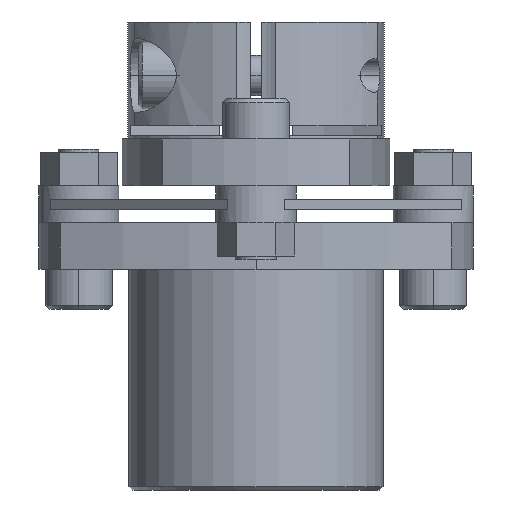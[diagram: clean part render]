
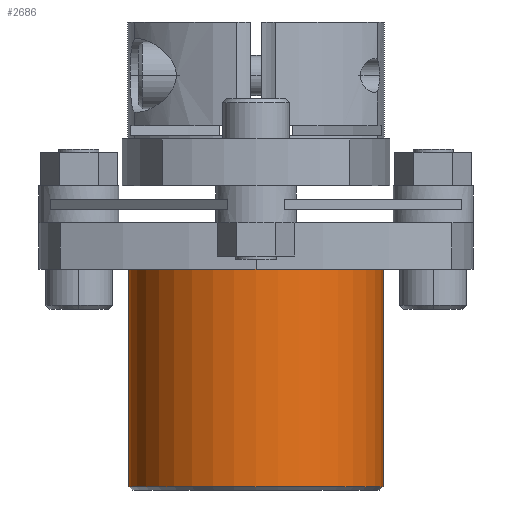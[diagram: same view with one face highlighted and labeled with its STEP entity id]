
A CAD part, front view. The second image highlights one B-rep face of the part: STEP entity #2686.
In plain terms, the highlighted cylindrical face has radius 19 mm (diameter 38 mm), a partial arc.
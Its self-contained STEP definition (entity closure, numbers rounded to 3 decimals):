
#2210=CARTESIAN_POINT('',(19.,0.,-42.25));
#2211=VERTEX_POINT('',#2210);
#2212=CARTESIAN_POINT('',(19.,0.,-9.75));
#2213=VERTEX_POINT('',#2212);
#2214=CARTESIAN_POINT('',(19.,0.,-42.25));
#2215=DIRECTION('',(0.0,0.0,1.0));
#2216=VECTOR('',#2215,32.5);
#2217=LINE('',#2214,#2216);
#2218=EDGE_CURVE('',#2211,#2213,#2217,.T.);
#2220=CARTESIAN_POINT('',(-19.,0.,-42.25));
#2221=VERTEX_POINT('',#2220);
#2229=CARTESIAN_POINT('',(-19.,0.,-9.75));
#2230=VERTEX_POINT('',#2229);
#2231=CARTESIAN_POINT('',(-19.,0.,-9.75));
#2232=DIRECTION('',(0.0,0.0,-1.0));
#2233=VECTOR('',#2232,32.5);
#2234=LINE('',#2231,#2233);
#2235=EDGE_CURVE('',#2230,#2221,#2234,.T.);
#2275=CARTESIAN_POINT('',(0.,0.0,-42.25));
#2276=DIRECTION('',(0.0,0.0,-1.0));
#2277=DIRECTION('',(-1.0,0.0,0.0));
#2278=AXIS2_PLACEMENT_3D('',#2275,#2276,#2277);
#2279=CIRCLE('',#2278,19.0);
#2280=EDGE_CURVE('',#2211,#2221,#2279,.T.);
#2669=CARTESIAN_POINT('',(0.,0.0,-22.75));
#2670=DIRECTION('',(0.0,0.0,1.0));
#2671=DIRECTION('',(1.0,0.0,0.0));
#2672=AXIS2_PLACEMENT_3D('',#2669,#2670,#2671);
#2673=CYLINDRICAL_SURFACE('',#2672,19.0);
#2674=ORIENTED_EDGE('',*,*,#2218,.T.);
#2675=CARTESIAN_POINT('',(0.,0.0,-9.75));
#2676=DIRECTION('',(0.0,0.0,1.0));
#2677=DIRECTION('',(1.0,0.0,0.0));
#2678=AXIS2_PLACEMENT_3D('',#2675,#2676,#2677);
#2679=CIRCLE('',#2678,19.0);
#2680=EDGE_CURVE('',#2230,#2213,#2679,.T.);
#2681=ORIENTED_EDGE('',*,*,#2680,.F.);
#2682=ORIENTED_EDGE('',*,*,#2235,.T.);
#2683=ORIENTED_EDGE('',*,*,#2280,.F.);
#2684=EDGE_LOOP('',(#2674,#2681,#2682,#2683));
#2685=FACE_OUTER_BOUND('',#2684,.T.);
#2686=ADVANCED_FACE('',(#2685),#2673,.T.);
